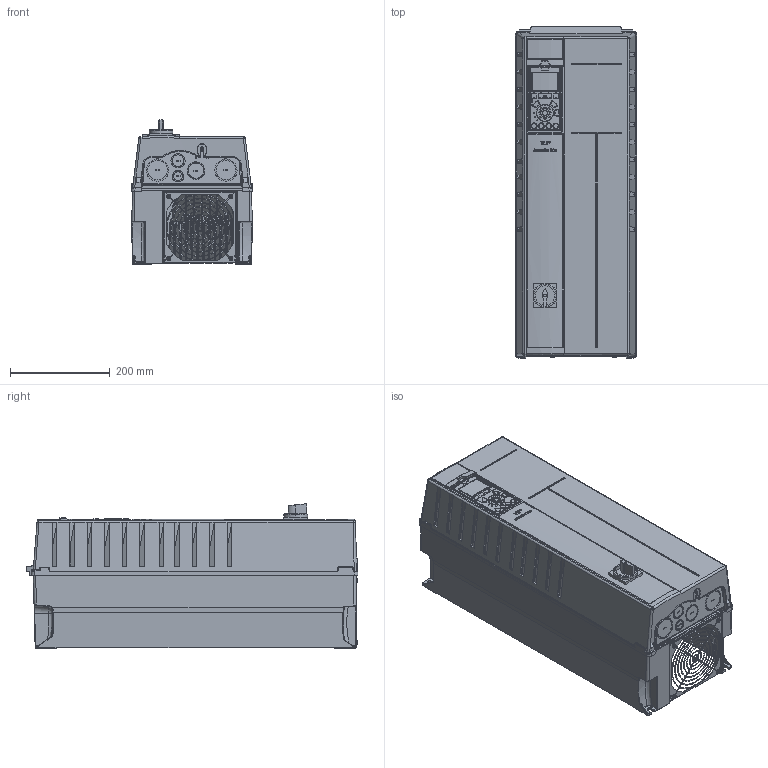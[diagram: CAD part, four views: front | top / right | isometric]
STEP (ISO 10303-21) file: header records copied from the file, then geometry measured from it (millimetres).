
FILE_DESCRIPTION((''),'2;1');
FILE_NAME('DANFOSS-FC300-B2-IP21-SWITCH','2011-11-09T',('cstephenkumar'),('Be-Atch INC. 1993'),'PRO/ENGINEER BY PARAMETRIC TECHNOLOGY CORPORATION, 2009360','PRO/ENGINEER BY PARAMETRIC TECHNOLOGY CORPORATION, 2009360','');
FILE_SCHEMA(('AUTOMOTIVE_DESIGN { 1 0 10303 214 1 1 1 1 }'));
Products named in the file (1): DANFOSS-FC300-B2-IP21-SWITCH
Bounding box: 242.5 x 664.32 x 289.1 mm (x, y, z)
Volume: 26236832 mm3; surface area: 2558638.8 mm2
Topology: 1 solids, 16 shells, 5594 faces, 14297 edges, 8762 vertices
Faces by surface type: cylinder 1931, plane 1760, bspline 1384, torus 199, cone 141, extrusion 115, sphere 64
Entity records: 232759 total; most frequent: CARTESIAN_POINT 104214, ORIENTED_EDGE 28552, DIRECTION 21714, EDGE_CURVE 14276, VERTEX_POINT 8762, AXIS2_PLACEMENT_3D 7375, VECTOR 6964, LINE 6849
